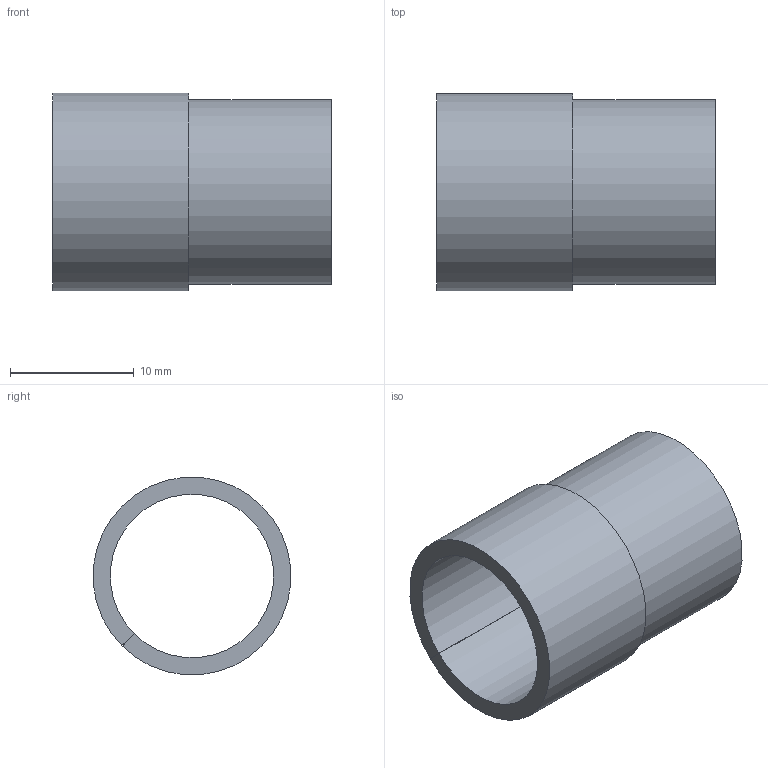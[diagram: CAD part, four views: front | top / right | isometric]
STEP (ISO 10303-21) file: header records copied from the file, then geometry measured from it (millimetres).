
FILE_DESCRIPTION(('Creo Elements/Direct Modeling STEP Export'),'2;1');
FILE_NAME('H11-0007-CL907-00_G13-13RS.stp','2023-06-09T 9:54:01',(''),(''),'Creo Elements/Direct Modeling STEP processor for AP214 (Solid Model)','Creo Elements/Direct Modeling 20.3B 05-Dec-2020 (C) Parametric Technology GmbH','');
FILE_SCHEMA(('AUTOMOTIVE_DESIGN { 1 0 10303 214 1 1 1 1 }'));
Length unit declared in the file: millimetre
Products named in the file (2): G13-13RS
Assembly tree (1 placements, depth 2):
  G13-13RS
    G13-13RS
Bounding box: 22.5 x 15.94 x 15.94 mm (x, y, z)
Volume: 1164.6 mm3; surface area: 2207.3 mm2
Topology: 1 solids, 1 shells, 8 faces, 18 edges, 12 vertices
Faces by surface type: plane 5, cylinder 3
Entity records: 273 total; most frequent: DIRECTION 44, CARTESIAN_POINT 40, ORIENTED_EDGE 36, EDGE_CURVE 18, AXIS2_PLACEMENT_3D 16, VECTOR 12, LINE 12, VERTEX_POINT 12
